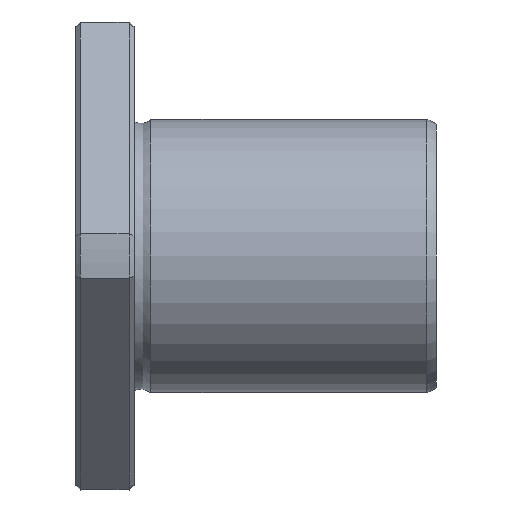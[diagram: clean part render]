
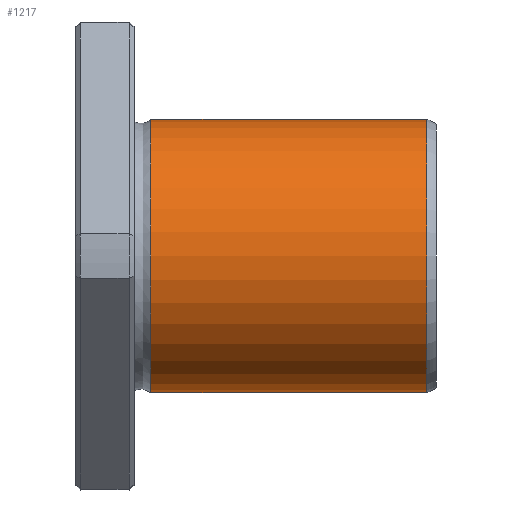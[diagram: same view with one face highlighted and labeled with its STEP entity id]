
A CAD part, front view. The second image highlights one B-rep face of the part: STEP entity #1217.
In plain terms, the highlighted cylindrical face has radius 14 mm (diameter 28 mm), a full revolution.
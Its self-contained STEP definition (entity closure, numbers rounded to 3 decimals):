
#1183=CARTESIAN_POINT('',(35.999,0.0,14.));
#1184=VERTEX_POINT('',#1183);
#1185=CARTESIAN_POINT('',(35.999,0.0,0.0));
#1186=DIRECTION('',(-1.0,0.0,0.0));
#1187=DIRECTION('',(0.0,0.0,1.0));
#1188=AXIS2_PLACEMENT_3D('',#1185,#1186,#1187);
#1189=CIRCLE('',#1188,14.);
#1190=EDGE_CURVE('',#1184,#1184,#1189,.T.);
#1198=CARTESIAN_POINT('',(21.859,0.0,0.0));
#1199=DIRECTION('',(-1.0,0.0,0.0));
#1200=DIRECTION('',(0.0,0.0,1.0));
#1201=AXIS2_PLACEMENT_3D('',#1198,#1199,#1200);
#1202=CYLINDRICAL_SURFACE('',#1201,14.);
#1203=CARTESIAN_POINT('',(7.72,0.0,14.));
#1204=VERTEX_POINT('',#1203);
#1205=CARTESIAN_POINT('',(7.72,0.0,0.0));
#1206=DIRECTION('',(-1.0,0.0,0.0));
#1207=DIRECTION('',(0.0,0.0,1.0));
#1208=AXIS2_PLACEMENT_3D('',#1205,#1206,#1207);
#1209=CIRCLE('',#1208,14.);
#1210=EDGE_CURVE('',#1204,#1204,#1209,.T.);
#1211=ORIENTED_EDGE('',*,*,#1210,.F.);
#1212=EDGE_LOOP('',(#1211));
#1213=FACE_OUTER_BOUND('',#1212,.T.);
#1214=ORIENTED_EDGE('',*,*,#1190,.T.);
#1215=EDGE_LOOP('',(#1214));
#1216=FACE_BOUND('',#1215,.T.);
#1217=ADVANCED_FACE('',(#1213,#1216),#1202,.T.);
